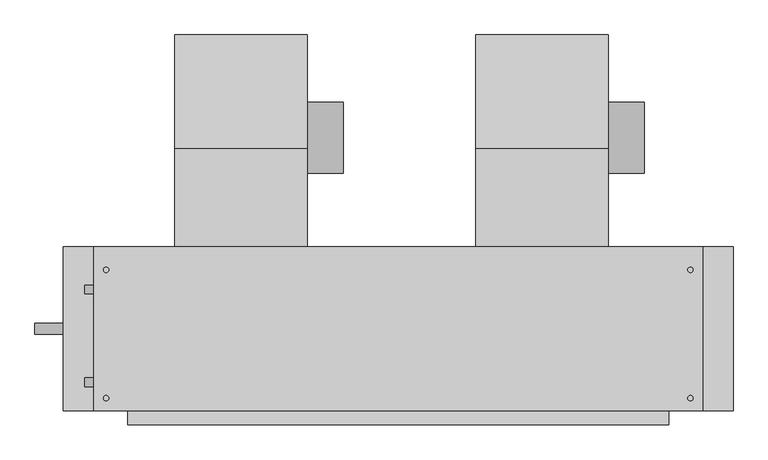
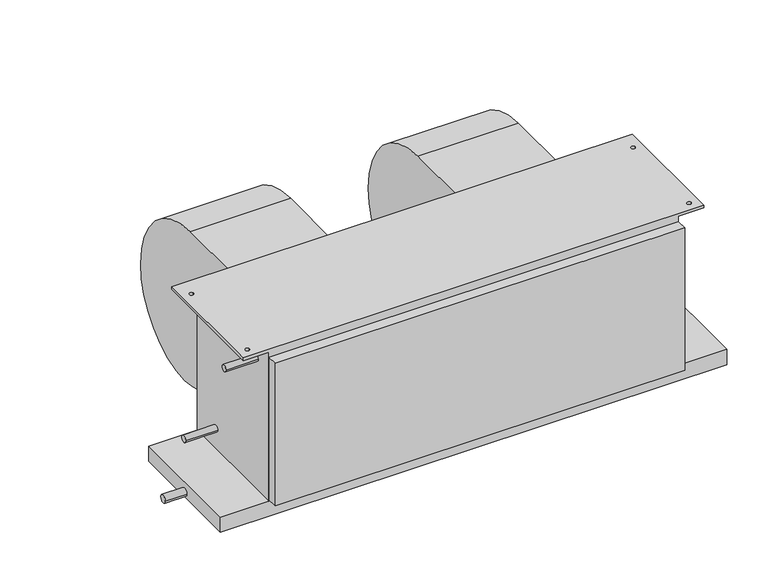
"""IFC4 building model written with IfcOpenShell, lengths in millimetres: proxy geometry, Concealed_High_Capacity_Horizontal_Fan_Coil_Unit_-_42DAA_-_CARRIER_-_2-Pipe_Cool-EHeat_LH_2022 : Size 16 - 277v/60Hz/1Ph - 6 Row 12.0kW."""

from ifc_helpers import new_model, si_unit, point, frame, frame_2d, origin, place, context, project, spatial, polyline, circle_curve, trimmed, segment, composite_curve, outline, extrude, source, transform, mapped, element, save
from ifc_brep_helpers import plane_surface, cylinder_surface, revolved_surface, advanced_brep


def mechanical_equipment_3fbaa853(model_context):
    return source(origin(), model_context, "Body", "SolidModel", [
        extrude(outline(composite_curve([segment(trimmed(circle_curve(frame_2d((102.0007598, -206.8897468)), 63.5), [point((165.5007598, -206.8897468))], [point((38.5007598, -206.8897468))], False, "CARTESIAN"), True, "CONTINUOUS"), segment(trimmed(circle_curve(frame_2d((102.0007598, -206.8897468)), 63.5), [point((38.5007598, -206.8897468))], [point((165.5007598, -206.8897468))], False, "CARTESIAN"), True, "CONTINUOUS")], self_intersect=False)), frame((-9.525, 0.0, 0.0), z_axis=(1.0, 0.0, 0.0), x_axis=(0.0, 1.0, 0.0)), (0.0, 0.0, 1.0), 63.5),
        advanced_brep(
        [(-245.999, 285.5155957, -222.029602), (-245.999, 104.6226, -403.64664), (-245.999, -50.9016, -277.10638), (-245.999, -92.075, -277.10638), (-245.999, -92.075, -19.05), (-245.999, 83.0080093, -19.05), (-9.525, 285.5155957, -222.029602), (-9.525, 83.0080093, -19.05), (-9.525, -92.075, -19.05), (-9.525, -92.075, -277.10638), (-9.525, -50.9016, -277.10638), (-9.525, 104.622599, -403.6457839)],
        [
            (0, 1, circle_curve(frame((-245.999, 104.44226, -222.57258), z_axis=(-1.0, 0.0, 0.0), x_axis=(0.0, -1.0, 0.0)), 181.0741498)),
            (1, 2, circle_curve(frame((-245.999, 104.44226, -245.02364), z_axis=(-1.0, 0.0, 0.0), x_axis=(0.0, -1.0, 0.0)), 158.6222464)),
            (2, 3),
            (3, 4),
            (4, 5),
            (5, 0, circle_curve(frame((-245.999, 81.9912, -222.57258), z_axis=(-1.0, 0.0, 0.0), x_axis=(0.0, -1.0, 0.0)), 203.52512)),
            (6, 7, circle_curve(frame((-9.525, 81.9912, -222.57258), z_axis=(1.0, 0.0, 0.0), x_axis=(0.0, -1.0, 0.0)), 203.52512)),
            (7, 8),
            (8, 9),
            (9, 10),
            (10, 11, circle_curve(frame((-9.525, 104.44226, -245.02364), z_axis=(1.0, 0.0, 0.0), x_axis=(0.0, -1.0, 0.0)), 158.6222464)),
            (11, 6, circle_curve(frame((-9.525, 104.44226, -222.57258), z_axis=(1.0, 0.0, 0.0), x_axis=(0.0, -1.0, 0.0)), 181.0741498)),
            (0, 6),
            (11, 1),
            (10, 2),
            (9, 3),
            (8, 4),
            (7, 5),
        ],
        [
            plane_surface(frame((-245.999, -76.6318898, -222.57258), z_axis=(-1.0, 0.0, 0.0), x_axis=(0.0, 0.0, 1.0))),
            plane_surface(frame((-9.525, -76.6318898, -222.57258), z_axis=(1.0, 0.0, 0.0), x_axis=(0.0, 0.0, -1.0))),
            cylinder_surface(frame((-9.525, 104.44226, -222.57258), z_axis=(-1.0, 0.0, 0.0), x_axis=(0.0, -1.0, 0.0)), 181.0741498),
            cylinder_surface(frame((-9.525, 104.44226, -245.02364), z_axis=(-1.0, 0.0, 0.0), x_axis=(0.0, -1.0, 0.0)), 158.6222464),
            plane_surface(frame((-245.999, -50.9016, -277.10638), z_axis=(0.0, 0.0, -1.0), x_axis=(1.0, 0.0, 0.0))),
            plane_surface(frame((-245.999, -92.075, -277.10638), z_axis=(0.0, -1.0, 0.0), x_axis=(1.0, 0.0, 0.0))),
            plane_surface(frame((-245.999, -92.075, -19.05), z_axis=(0.0, 0.0, 1.0), x_axis=(1.0, 0.0, 0.0))),
            cylinder_surface(frame((-9.525, 81.9912, -222.57258), z_axis=(-1.0, 0.0, 0.0), x_axis=(0.0, -1.0, 0.0)), 203.52512),
        ],
        [
            (0, [[1, 2, 3, 4, 5, 6]]),
            (1, [[7, 8, 9, 10, 11, 12]]),
            (2, [[-1, 13, -12, 14]]),
            (3, [[-2, -14, -11, 15]]),
            (4, [[-3, -15, -10, 16]]),
            (5, [[-4, -16, -9, 17]]),
            (6, [[-5, -17, -8, 18]]),
            (7, [[-6, -18, -7, -13]]),
        ],
    ),
        extrude(outline(composite_curve([segment(trimmed(circle_curve(frame_2d((102.0007598, -206.8897468)), 63.5), [point((165.5007598, -206.8897468))], [point((38.5007598, -206.8897468))], False, "CARTESIAN"), True, "CONTINUOUS"), segment(trimmed(circle_curve(frame_2d((102.0007598, -206.8897468)), 63.5), [point((38.5007598, -206.8897468))], [point((165.5007598, -206.8897468))], False, "CARTESIAN"), True, "CONTINUOUS")], self_intersect=False)), frame((527.05, 0.0, 0.0), z_axis=(1.0, 0.0, 0.0), x_axis=(0.0, 1.0, 0.0)), (0.0, 0.0, 1.0), 63.5),
        advanced_brep(
        [(290.576, 285.5155957, -222.029602), (290.576, 104.6226, -403.64664), (290.576, -50.9016, -277.10638), (290.576, -92.075, -277.10638), (290.576, -92.075, -19.05), (290.576, 83.0080093, -19.05), (527.05, 285.5155957, -222.029602), (527.05, 83.0080093, -19.05), (527.05, -92.075, -19.05), (527.05, -92.075, -277.10638), (527.05, -50.9016, -277.10638), (527.05, 104.622599, -403.6457839)],
        [
            (0, 1, circle_curve(frame((290.576, 104.44226, -222.57258), z_axis=(-1.0, 0.0, 0.0), x_axis=(0.0, -1.0, 0.0)), 181.0741498)),
            (1, 2, circle_curve(frame((290.576, 104.44226, -245.02364), z_axis=(-1.0, 0.0, 0.0), x_axis=(0.0, -1.0, 0.0)), 158.6222464)),
            (2, 3),
            (3, 4),
            (4, 5),
            (5, 0, circle_curve(frame((290.576, 81.9912, -222.57258), z_axis=(-1.0, 0.0, 0.0), x_axis=(0.0, -1.0, 0.0)), 203.52512)),
            (6, 7, circle_curve(frame((527.05, 81.9912, -222.57258), z_axis=(1.0, 0.0, 0.0), x_axis=(0.0, -1.0, 0.0)), 203.52512)),
            (7, 8),
            (8, 9),
            (9, 10),
            (10, 11, circle_curve(frame((527.05, 104.44226, -245.02364), z_axis=(1.0, 0.0, 0.0), x_axis=(0.0, -1.0, 0.0)), 158.6222464)),
            (11, 6, circle_curve(frame((527.05, 104.44226, -222.57258), z_axis=(1.0, 0.0, 0.0), x_axis=(0.0, -1.0, 0.0)), 181.0741498)),
            (0, 6),
            (11, 1),
            (10, 2),
            (9, 3),
            (8, 4),
            (7, 5),
        ],
        [
            plane_surface(frame((290.576, -76.6318898, -222.57258), z_axis=(-1.0, 0.0, 0.0), x_axis=(0.0, 0.0, 1.0))),
            plane_surface(frame((527.05, -76.6318898, -222.57258), z_axis=(1.0, 0.0, 0.0), x_axis=(0.0, 0.0, -1.0))),
            cylinder_surface(frame((527.05, 104.44226, -222.57258), z_axis=(-1.0, 0.0, 0.0), x_axis=(0.0, -1.0, 0.0)), 181.0741498),
            cylinder_surface(frame((527.05, 104.44226, -245.02364), z_axis=(-1.0, 0.0, 0.0), x_axis=(0.0, -1.0, 0.0)), 158.6222464),
            plane_surface(frame((290.576, -50.9016, -277.10638), z_axis=(0.0, 0.0, -1.0), x_axis=(1.0, 0.0, 0.0))),
            plane_surface(frame((290.576, -92.075, -277.10638), z_axis=(0.0, -1.0, 0.0), x_axis=(1.0, 0.0, 0.0))),
            plane_surface(frame((290.576, -92.075, -19.05), z_axis=(0.0, 0.0, 1.0), x_axis=(1.0, 0.0, 0.0))),
            cylinder_surface(frame((527.05, 81.9912, -222.57258), z_axis=(-1.0, 0.0, 0.0), x_axis=(0.0, -1.0, 0.0)), 203.52512),
        ],
        [
            (0, [[1, 2, 3, 4, 5, 6]]),
            (1, [[7, 8, 9, 10, 11, 12]]),
            (2, [[-1, 13, -12, 14]]),
            (3, [[-2, -14, -11, 15]]),
            (4, [[-3, -15, -10, 16]]),
            (5, [[-4, -16, -9, 17]]),
            (6, [[-5, -17, -8, 18]]),
            (7, [[-6, -18, -7, -13]]),
        ],
    ),
        advanced_brep(
        [(695.325, -92.075, -6.35), (695.325, -384.175, -6.35), (635.0, -384.175, -6.35), (635.0, -92.075, -6.35), (668.3375, -133.35, -6.35), (677.8625, -133.35, -6.35), (668.3375, -361.95, -6.35), (677.8625, -361.95, -6.35), (-390.525, -92.075, -6.35), (-330.2, -92.075, -6.35), (-330.2, -384.175, -6.35), (-390.525, -384.175, -6.35), (-373.0625, -133.35, -6.35), (-363.5375, -133.35, -6.35), (-373.0625, -361.95, -6.35), (-363.5375, -361.95, -6.35), (695.325, -384.175, 0.0), (695.325, -92.075, 0.0), (-390.525, -92.075, 0.0), (-390.525, -384.175, 0.0), (-363.5375, -133.35, 0.0), (-373.0625, -133.35, 0.0), (-363.5375, -361.95, 0.0), (-373.0625, -361.95, 0.0), (677.8625, -133.35, 0.0), (668.3375, -133.35, 0.0), (677.8625, -361.95, 0.0), (668.3375, -361.95, 0.0), (635.0, -92.075, -377.825), (-330.2, -92.075, -377.825), (-330.2, -384.175, -377.825), (635.0, -384.175, -377.825)],
        [
            (0, 1),
            (1, 2),
            (2, 3),
            (3, 0),
            (4, 5, circle_curve(frame((673.1, -133.35, -6.35), z_axis=(0.0, 0.0, 1.0), x_axis=(1.0, 0.0, 0.0)), 4.7625)),
            (5, 4, circle_curve(frame((673.1, -133.35, -6.35), z_axis=(0.0, 0.0, 1.0), x_axis=(1.0, 0.0, 0.0)), 4.7625)),
            (6, 7, circle_curve(frame((673.1, -361.95, -6.35), z_axis=(0.0, 0.0, 1.0), x_axis=(1.0, 0.0, 0.0)), 4.7625)),
            (7, 6, circle_curve(frame((673.1, -361.95, -6.35), z_axis=(0.0, 0.0, 1.0), x_axis=(1.0, 0.0, 0.0)), 4.7625)),
            (8, 9),
            (9, 10),
            (10, 11),
            (11, 8),
            (12, 13, circle_curve(frame((-368.3, -133.35, -6.35), z_axis=(0.0, 0.0, 1.0), x_axis=(1.0, 0.0, 0.0)), 4.7625)),
            (13, 12, circle_curve(frame((-368.3, -133.35, -6.35), z_axis=(0.0, 0.0, 1.0), x_axis=(1.0, 0.0, 0.0)), 4.7625)),
            (14, 15, circle_curve(frame((-368.3, -361.95, -6.35), z_axis=(0.0, 0.0, 1.0), x_axis=(1.0, 0.0, 0.0)), 4.7625)),
            (15, 14, circle_curve(frame((-368.3, -361.95, -6.35), z_axis=(0.0, 0.0, 1.0), x_axis=(1.0, 0.0, 0.0)), 4.7625)),
            (16, 17),
            (17, 18),
            (18, 19),
            (19, 16),
            (20, 21, circle_curve(frame((-368.3, -133.35, 0.0), z_axis=(0.0, 0.0, -1.0), x_axis=(1.0, 0.0, 0.0)), 4.7625)),
            (21, 20, circle_curve(frame((-368.3, -133.35, 0.0), z_axis=(0.0, 0.0, -1.0), x_axis=(1.0, 0.0, 0.0)), 4.7625)),
            (22, 23, circle_curve(frame((-368.3, -361.95, 0.0), z_axis=(0.0, 0.0, -1.0), x_axis=(1.0, 0.0, 0.0)), 4.7625)),
            (23, 22, circle_curve(frame((-368.3, -361.95, 0.0), z_axis=(0.0, 0.0, -1.0), x_axis=(1.0, 0.0, 0.0)), 4.7625)),
            (24, 25, circle_curve(frame((673.1, -133.35, 0.0), z_axis=(0.0, 0.0, -1.0), x_axis=(1.0, 0.0, 0.0)), 4.7625)),
            (25, 24, circle_curve(frame((673.1, -133.35, 0.0), z_axis=(0.0, 0.0, -1.0), x_axis=(1.0, 0.0, 0.0)), 4.7625)),
            (26, 27, circle_curve(frame((673.1, -361.95, 0.0), z_axis=(0.0, 0.0, -1.0), x_axis=(1.0, 0.0, 0.0)), 4.7625)),
            (27, 26, circle_curve(frame((673.1, -361.95, 0.0), z_axis=(0.0, 0.0, -1.0), x_axis=(1.0, 0.0, 0.0)), 4.7625)),
            (3, 28),
            (28, 29),
            (29, 9),
            (8, 18),
            (17, 0),
            (1, 16),
            (19, 11),
            (10, 30),
            (30, 31),
            (31, 2),
            (28, 31),
            (30, 29),
            (20, 13),
            (12, 21),
            (22, 15),
            (14, 23),
            (24, 5),
            (4, 25),
            (26, 7),
            (6, 27),
        ],
        [
            plane_surface(frame((635.0, -92.075, -6.35), z_axis=(0.0, 0.0, -1.0), x_axis=(1.0, 0.0, 0.0))),
            plane_surface(frame((635.0, -92.075, 0.0), z_axis=(0.0, 0.0, 1.0), x_axis=(-1.0, 0.0, 0.0))),
            plane_surface(frame((695.325, -92.075, 0.0), z_axis=(0.0, 1.0, 0.0), x_axis=(0.0, 0.0, -1.0))),
            plane_surface(frame((635.0, -384.175, 0.0), z_axis=(0.0, -1.0, 0.0), x_axis=(0.0, 0.0, -1.0))),
            plane_surface(frame((695.325, -384.175, 0.0), z_axis=(1.0, 0.0, 0.0), x_axis=(0.0, 0.0, -1.0))),
            plane_surface(frame((-390.525, -92.075, 0.0), z_axis=(-1.0, 0.0, 0.0), x_axis=(0.0, 0.0, -1.0))),
            plane_surface(frame((-330.2, -92.075, -377.825), z_axis=(0.0, 0.0, -1.0), x_axis=(1.0, 0.0, 0.0))),
            plane_surface(frame((-330.2, -92.075, 0.0), z_axis=(-1.0, 0.0, 0.0), x_axis=(0.0, 0.0, -1.0))),
            plane_surface(frame((635.0, -384.175, 0.0), z_axis=(1.0, 0.0, 0.0), x_axis=(0.0, 0.0, -1.0))),
            revolved_surface(polyline([(-363.5375, -133.35, 0.0), (-363.5375, -133.35, -6.35)]), (-368.3, -133.35, -6.35), (0.0, 0.0, 1.0)),
            revolved_surface(polyline([(-363.5375, -361.95, 0.0), (-363.5375, -361.95, -6.35)]), (-368.3, -361.95, 0.0), (0.0, 0.0, 1.0)),
            revolved_surface(polyline([(677.8625000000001, -133.35, 0.0), (677.8625000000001, -133.35, -6.35)]), (673.1, -133.35, 0.0), (0.0, 0.0, 1.0)),
            revolved_surface(polyline([(677.8625000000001, -361.95, 0.0), (677.8625000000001, -361.95, -6.35)]), (673.1, -361.95, 0.0), (0.0, 0.0, 1.0)),
        ],
        [
            (0, [[1, 2, 3, 4], [5, 6], [7, 8]]),
            (0, [[9, 10, 11, 12], [13, 14], [15, 16]]),
            (1, [[17, 18, 19, 20], [21, 22], [23, 24], [25, 26], [27, 28]]),
            (2, [[-4, 29, 30, 31, -9, 32, -18, 33]]),
            (3, [[-2, 34, -20, 35, -11, 36, 37, 38]]),
            (4, [[-1, -33, -17, -34]]),
            (5, [[-12, -35, -19, -32]]),
            (6, [[39, -37, 40, -30]]),
            (7, [[-40, -36, -10, -31]]),
            (8, [[-39, -29, -3, -38]]),
            (9, [[41, -13, 42, -21]]),
            (9, [[-41, -22, -42, -14]]),
            (10, [[43, -15, 44, -23]]),
            (10, [[-43, -24, -44, -16]]),
            (11, [[45, -5, 46, -25]]),
            (11, [[-45, -26, -46, -6]]),
            (12, [[47, -7, 48, -27]]),
            (12, [[-47, -28, -48, -8]]),
        ],
    ),
        extrude(outline(composite_curve([segment(trimmed(circle_curve(frame_2d((-238.125, -403.225)), 9.525), [point((-247.65, -403.225))], [point((-228.6, -403.225))], False, "CARTESIAN"), True, "CONTINUOUS"), segment(trimmed(circle_curve(frame_2d((-238.125, -403.225)), 9.525), [point((-228.6, -403.225))], [point((-247.65, -403.225))], False, "CARTESIAN"), True, "CONTINUOUS")], self_intersect=False)), frame((-495.3, 0.0, 0.0), z_axis=(1.0, 0.0, 0.0), x_axis=(0.0, 1.0, 0.0)), (0.0, 0.0, 1.0), 50.8),
        extrude(outline(composite_curve([segment(trimmed(circle_curve(frame_2d((-333.375, -50.8)), 7.9375), [point((-341.3125, -50.8))], [point((-325.4375, -50.8))], False, "CARTESIAN"), True, "CONTINUOUS"), segment(trimmed(circle_curve(frame_2d((-333.375, -50.8)), 7.9375), [point((-325.4375, -50.8))], [point((-341.3125, -50.8))], False, "CARTESIAN"), True, "CONTINUOUS")], self_intersect=False)), frame((-406.4, 0.0, 0.0), z_axis=(1.0, 0.0, 0.0), x_axis=(0.0, 1.0, 0.0)), (0.0, 0.0, 1.0), 76.2),
        extrude(outline(composite_curve([segment(trimmed(circle_curve(frame_2d((-168.275, -327.025)), 7.9375), [point((-176.2125, -327.025))], [point((-160.3375, -327.025))], False, "CARTESIAN"), True, "CONTINUOUS"), segment(trimmed(circle_curve(frame_2d((-168.275, -327.025)), 7.9375), [point((-160.3375, -327.025))], [point((-176.2125, -327.025))], False, "CARTESIAN"), True, "CONTINUOUS")], self_intersect=False)), frame((-406.4, 0.0, 0.0), z_axis=(1.0, 0.0, 0.0), x_axis=(0.0, 1.0, 0.0)), (0.0, 0.0, 1.0), 76.2),
        extrude(outline(polyline([(635.0, -409.575), (-330.2, -409.575), (-330.2, -384.175), (635.0, -384.175), (635.0, -409.575)])), frame((0.0, 0.0, -374.65), z_axis=(0.0, 0.0, 1.0), x_axis=(1.0, 0.0, 0.0)), (0.0, 0.0, 1.0), 355.6),
        extrude(outline(polyline([(749.3, -92.075), (749.3, -384.175), (-444.5, -384.175), (-444.5, -92.075), (749.3, -92.075)])), frame((0.0, 0.0, -415.925), z_axis=(0.0, 0.0, 1.0), x_axis=(1.0, 0.0, 0.0)), (0.0, 0.0, 1.0), 38.1),
    ])


if __name__ == "__main__":
    model = new_model("IFC4")
    model_context = context("Model", 3, world=origin())
    ifc_project = project(units=[si_unit("LENGTHUNIT", "METRE", prefix="MILLI")], contexts=[model_context])
    site = spatial("IfcSite", under=ifc_project)
    building = spatial("IfcBuilding", under=site)
    placement = place(None, origin())
    mechanical_equipment_shape = mechanical_equipment_3fbaa853(model_context)
    element("IfcBuildingElementProxy", 1, Name="Concealed_High_Capacity_Horizontal_Fan_Coil_Unit_-_42DAA_-_CARRIER_-_2-Pipe_Cool-EHeat_LH_2022 : Size 16 - 277v/60Hz/1Ph - 6 Row 12.0kW", ObjectType="Concealed_High_Capacity_Horizontal_Fan_Coil_Unit_-_42DAA_-_CARRIER_-_2-Pipe_Cool-EHeat_LH_2022 : Size 16 - 277v/60Hz/1Ph - 6 Row 12.0kW", at=placement, inside=building, context=model_context, shape_type="MappedRepresentation", body=[
        mapped(mechanical_equipment_shape, transform((0.0, 0.0, 0.0), x_axis=(1.0, 0.0, 0.0), y_axis=(0.0, 1.0, 0.0), z_axis=(0.0, 0.0, 1.0))),
    ])
    save(model, "model.ifc")
